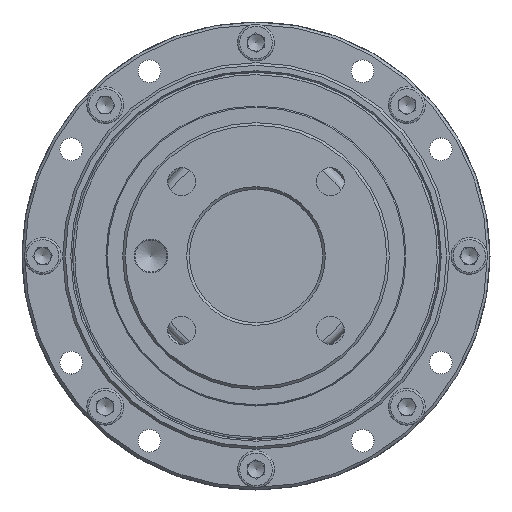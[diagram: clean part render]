
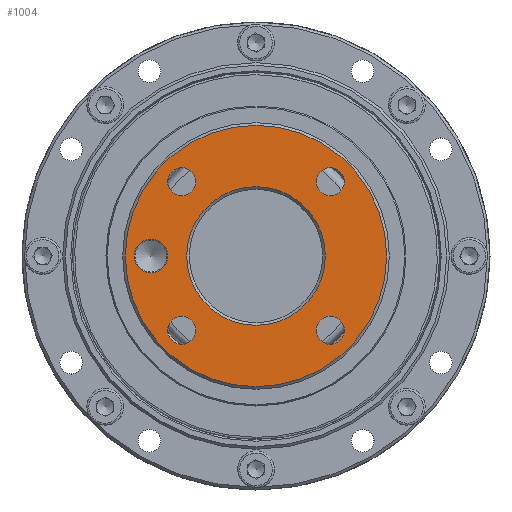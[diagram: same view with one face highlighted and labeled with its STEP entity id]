
A CAD part, left-side view. The second image highlights one B-rep face of the part: STEP entity #1004.
In plain terms, the highlighted planar face has unit normal (-1, 0, 0).
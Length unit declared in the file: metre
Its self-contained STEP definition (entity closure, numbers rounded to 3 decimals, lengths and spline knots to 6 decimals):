
#15 = AXIS2_PLACEMENT_3D ( 'NONE', #4212, #17694, #13225 ) ;
#63 = DIRECTION ( 'NONE',  ( 0., 0., 1. ) ) ;
#412 = FACE_BOUND ( 'NONE', #5009, .T. ) ;
#475 = EDGE_CURVE ( 'NONE', #18280, #18280, #16690, .T. ) ;
#650 = CARTESIAN_POINT ( 'NONE',  ( -0.02425, 0., 0. ) ) ;
#709 = FACE_BOUND ( 'NONE', #2857, .T. ) ;
#780 = DIRECTION ( 'NONE',  ( 1., 0., 0. ) ) ;
#1004 = ADVANCED_FACE ( 'NONE', ( #18550, #412, #709, #18116, #9577, #27084, #20725 ), #26942, .F. ) ;
#1031 = ORIENTED_EDGE ( 'NONE', *, *, #27783, .T. ) ;
#1813 = AXIS2_PLACEMENT_3D ( 'NONE', #18624, #16994, #12391 ) ;
#1933 = VERTEX_POINT ( 'NONE', #28334 ) ;
#2857 = EDGE_LOOP ( 'NONE', ( #15531 ) ) ;
#4212 = CARTESIAN_POINT ( 'NONE',  ( -0.02425, -0.011137, -0.011137 ) ) ;
#4765 = EDGE_CURVE ( 'NONE', #6100, #6100, #4770, .T. ) ;
#4770 = CIRCLE ( 'NONE', #26518, 0.0196 ) ;
#4810 = CARTESIAN_POINT ( 'NONE',  ( -0.02425, -0.011137, -0.009037 ) ) ;
#4819 = CIRCLE ( 'NONE', #14095, 0.0021 ) ;
#5009 = EDGE_LOOP ( 'NONE', ( #15943 ) ) ;
#6023 = CARTESIAN_POINT ( 'NONE',  ( -0.02425, 0.011137, -0.009037 ) ) ;
#6100 = VERTEX_POINT ( 'NONE', #10745 ) ;
#6326 = CARTESIAN_POINT ( 'NONE',  ( -0.02425, -0.011137, 0.011137 ) ) ;
#7153 = EDGE_LOOP ( 'NONE', ( #1031 ) ) ;
#7380 = CARTESIAN_POINT ( 'NONE',  ( -0.02425, 0., 0.0104 ) ) ;
#7550 = CARTESIAN_POINT ( 'NONE',  ( -0.02425, 0.01, 0. ) ) ;
#8010 = CIRCLE ( 'NONE', #20498, 0.0104 ) ;
#8213 = EDGE_CURVE ( 'NONE', #18534, #18534, #25548, .T. ) ;
#8374 = EDGE_CURVE ( 'NONE', #10126, #10126, #8010, .T. ) ;
#8601 = CARTESIAN_POINT ( 'NONE',  ( -0.02425, 0.01575, 0.0025 ) ) ;
#8749 = DIRECTION ( 'NONE',  ( 1., 0., 0. ) ) ;
#9316 = AXIS2_PLACEMENT_3D ( 'NONE', #7550, #27225, #25210 ) ;
#9577 = FACE_BOUND ( 'NONE', #21797, .T. ) ;
#10126 = VERTEX_POINT ( 'NONE', #7380 ) ;
#10745 = CARTESIAN_POINT ( 'NONE',  ( -0.02425, 0.0196, 0. ) ) ;
#12306 = CIRCLE ( 'NONE', #13220, 0.0021 ) ;
#12326 = ORIENTED_EDGE ( 'NONE', *, *, #18529, .F. ) ;
#12391 = DIRECTION ( 'NONE',  ( 0., 0., 1. ) ) ;
#13002 = DIRECTION ( 'NONE',  ( 0., 0., 1. ) ) ;
#13084 = AXIS2_PLACEMENT_3D ( 'NONE', #6326, #23991, #13002 ) ;
#13220 = AXIS2_PLACEMENT_3D ( 'NONE', #26683, #8749, #26550 ) ;
#13225 = DIRECTION ( 'NONE',  ( 0., 0., 1. ) ) ;
#13242 = CARTESIAN_POINT ( 'NONE',  ( -0.02425, 0.011137, -0.011137 ) ) ;
#14095 = AXIS2_PLACEMENT_3D ( 'NONE', #13242, #22069, #26677 ) ;
#14254 = ORIENTED_EDGE ( 'NONE', *, *, #8374, .F. ) ;
#14990 = VERTEX_POINT ( 'NONE', #8601 ) ;
#15152 = EDGE_LOOP ( 'NONE', ( #24710 ) ) ;
#15318 = EDGE_LOOP ( 'NONE', ( #14254 ) ) ;
#15531 = ORIENTED_EDGE ( 'NONE', *, *, #8213, .T. ) ;
#15943 = ORIENTED_EDGE ( 'NONE', *, *, #475, .T. ) ;
#16654 = CIRCLE ( 'NONE', #1813, 0.0025 ) ;
#16690 = CIRCLE ( 'NONE', #15, 0.0021 ) ;
#16994 = DIRECTION ( 'NONE',  ( -1., 0., 0. ) ) ;
#17614 = DIRECTION ( 'NONE',  ( -1., 0., 0. ) ) ;
#17694 = DIRECTION ( 'NONE',  ( 1., 0., 0. ) ) ;
#18116 = FACE_BOUND ( 'NONE', #7153, .T. ) ;
#18280 = VERTEX_POINT ( 'NONE', #4810 ) ;
#18529 = EDGE_CURVE ( 'NONE', #14990, #14990, #16654, .T. ) ;
#18534 = VERTEX_POINT ( 'NONE', #23315 ) ;
#18550 = FACE_BOUND ( 'NONE', #15152, .T. ) ;
#18624 = CARTESIAN_POINT ( 'NONE',  ( -0.02425, 0.01575, 0. ) ) ;
#18909 = ORIENTED_EDGE ( 'NONE', *, *, #4765, .F. ) ;
#20498 = AXIS2_PLACEMENT_3D ( 'NONE', #28618, #17614, #63 ) ;
#20725 = FACE_OUTER_BOUND ( 'NONE', #26630, .T. ) ;
#21797 = EDGE_LOOP ( 'NONE', ( #12326 ) ) ;
#22069 = DIRECTION ( 'NONE',  ( 1., 0., 0. ) ) ;
#23271 = DIRECTION ( 'NONE',  ( 0., 1., 0. ) ) ;
#23315 = CARTESIAN_POINT ( 'NONE',  ( -0.02425, -0.011137, 0.013237 ) ) ;
#23991 = DIRECTION ( 'NONE',  ( 1., 0., 0. ) ) ;
#24710 = ORIENTED_EDGE ( 'NONE', *, *, #26570, .T. ) ;
#25210 = DIRECTION ( 'NONE',  ( 0., 0., -1. ) ) ;
#25433 = VERTEX_POINT ( 'NONE', #6023 ) ;
#25548 = CIRCLE ( 'NONE', #13084, 0.0021 ) ;
#26518 = AXIS2_PLACEMENT_3D ( 'NONE', #650, #780, #23271 ) ;
#26550 = DIRECTION ( 'NONE',  ( 0., 0., 1. ) ) ;
#26570 = EDGE_CURVE ( 'NONE', #25433, #25433, #4819, .T. ) ;
#26630 = EDGE_LOOP ( 'NONE', ( #18909 ) ) ;
#26677 = DIRECTION ( 'NONE',  ( 0., 0., 1. ) ) ;
#26683 = CARTESIAN_POINT ( 'NONE',  ( -0.02425, 0.011137, 0.011137 ) ) ;
#26942 = PLANE ( 'NONE',  #9316 ) ;
#27084 = FACE_BOUND ( 'NONE', #15318, .T. ) ;
#27225 = DIRECTION ( 'NONE',  ( 1., 0., 0. ) ) ;
#27783 = EDGE_CURVE ( 'NONE', #1933, #1933, #12306, .T. ) ;
#28334 = CARTESIAN_POINT ( 'NONE',  ( -0.02425, 0.011137, 0.013237 ) ) ;
#28618 = CARTESIAN_POINT ( 'NONE',  ( -0.02425, 0., 0. ) ) ;
